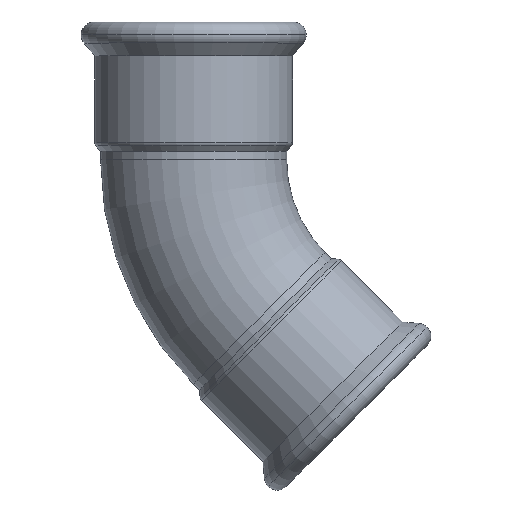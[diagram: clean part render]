
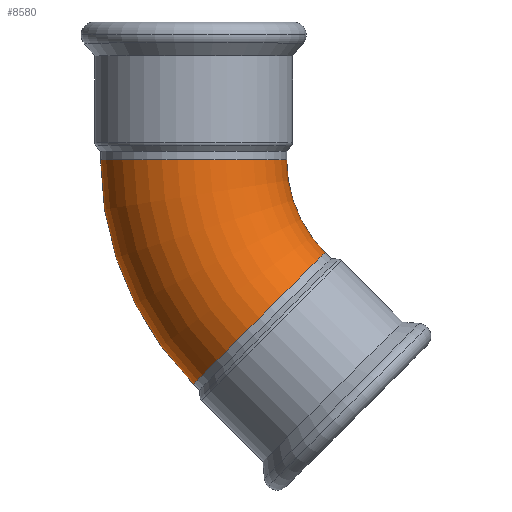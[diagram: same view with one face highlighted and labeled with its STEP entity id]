
A CAD part, top view. The second image highlights one B-rep face of the part: STEP entity #8580.
In plain terms, the highlighted toroidal (fillet/blend) face has major radius 65 mm and minor radius 27 mm.
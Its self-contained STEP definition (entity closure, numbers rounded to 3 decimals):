
#5390=CARTESIAN_POINT('',(57.344,191.219,
0.));
#5400=VERTEX_POINT('',#5390);
#5540=CARTESIAN_POINT('',(3.344,191.219,0.));
#5550=VERTEX_POINT('',#5540);
#6140=CARTESIAN_POINT('',(68.474,164.349,
0.));
#6150=VERTEX_POINT('',#6140);
#6230=CARTESIAN_POINT('',(30.29,126.165,0.));
#6240=VERTEX_POINT('',#6230);
#6270=CARTESIAN_POINT('',(49.382,145.257,0.));
#6280=DIRECTION('',(0.707,-0.707,0.));
#6290=DIRECTION('',(-0.707,-0.707,0.));
#6300=AXIS2_PLACEMENT_3D('',#6270,#6280,#6290);
#6310=CIRCLE('',#6300,27.);
#6320=CARTESIAN_POINT('',(49.382,145.257,27.));
#6330=VERTEX_POINT('',#6320);
#6340=EDGE_CURVE('',#6330,#6240,#6310,.T.);
#6360=EDGE_CURVE('',#6150,#6330,#6310,.T.);
#8280=CARTESIAN_POINT('',(95.344,191.219,0.));
#8290=DIRECTION('',(0.,0.,1.));
#8300=DIRECTION('',(-1.,0.,0.));
#8310=AXIS2_PLACEMENT_3D('',#8280,#8290,#8300);
#8320=TOROIDAL_SURFACE('',#8310,65.,27.);
#8330=ORIENTED_EDGE('',*,*,#6340,.F.);
#8340=CARTESIAN_POINT('',(95.344,191.219,
0.));
#8350=DIRECTION('',(0.,0.,1.));
#8360=DIRECTION('',(-1.,0.,0.));
#8370=AXIS2_PLACEMENT_3D('',#8340,#8350,#8360);
#8380=CIRCLE('',#8370,92.);
#8390=EDGE_CURVE('',#5550,#6240,#8380,.T.);
#8400=ORIENTED_EDGE('',*,*,#8390,.T.);
#8410=CARTESIAN_POINT('',(30.344,191.219,0.));
#8420=DIRECTION('',(0.,-1.,0.));
#8430=DIRECTION('',(-1.,0.,0.));
#8440=AXIS2_PLACEMENT_3D('',#8410,#8420,#8430);
#8450=CIRCLE('',#8440,27.);
#8460=EDGE_CURVE('',#5400,#5550,#8450,.T.);
#8470=ORIENTED_EDGE('',*,*,#8460,.T.);
#8480=CARTESIAN_POINT('',(95.344,191.219,
0.));
#8490=DIRECTION('',(0.,0.,1.));
#8500=DIRECTION('',(-1.,0.,0.));
#8510=AXIS2_PLACEMENT_3D('',#8480,#8490,#8500);
#8520=CIRCLE('',#8510,38.);
#8530=EDGE_CURVE('',#5400,#6150,#8520,.T.);
#8540=ORIENTED_EDGE('',*,*,#8530,.F.);
#8550=ORIENTED_EDGE('',*,*,#6360,.F.);
#8560=EDGE_LOOP('',(#8550,#8540,#8470,#8400,#8330));
#8570=FACE_OUTER_BOUND('',#8560,.T.);
#8580=ADVANCED_FACE('',(#8570),#8320,.T.);
